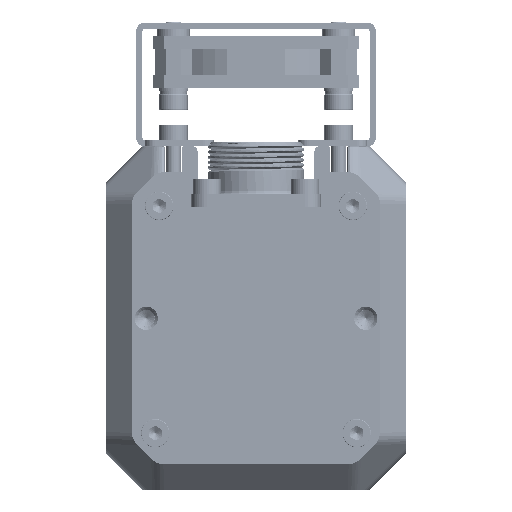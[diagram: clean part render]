
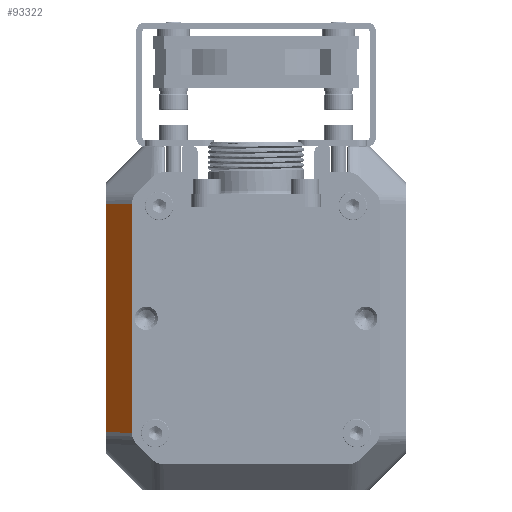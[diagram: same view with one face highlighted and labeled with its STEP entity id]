
A CAD part, front view. The second image highlights one B-rep face of the part: STEP entity #93322.
In plain terms, the highlighted planar face has unit normal (-0.707, -0.707, 0).
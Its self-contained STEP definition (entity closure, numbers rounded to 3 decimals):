
#11271=CARTESIAN_POINT('',(-24.,-485.,-55.435));
#11279=DIRECTION('',(0.707,-0.707,-0.02));
#11280=VECTOR('',#11279,7.072);
#11281=CARTESIAN_POINT('',(-29.,-480.,-55.297));
#11282=LINE('',#11281,#11280);
#11283=DIRECTION('',(0.,0.,-1.));
#11284=VECTOR('',#11283,44.094);
#11285=CARTESIAN_POINT('',(-29.,-480.,-11.203));
#11286=LINE('',#11285,#11284);
#11287=DIRECTION('',(-0.707,0.707,-0.02));
#11288=VECTOR('',#11287,7.072);
#11289=CARTESIAN_POINT('',(-24.,-485.,-11.065));
#11290=LINE('',#11289,#11288);
#11291=DIRECTION('',(0.,0.,1.));
#11292=VECTOR('',#11291,44.371);
#11293=CARTESIAN_POINT('',(-24.,-485.,-55.435));
#11294=LINE('',#11293,#11292);
#11305=CARTESIAN_POINT('',(-29.,-480.,-11.203));
#62864=VERTEX_POINT('',#11271);
#62865=CARTESIAN_POINT('',(-24.,-485.,-11.065));
#62866=VERTEX_POINT('',#62865);
#63076=VERTEX_POINT('',#11305);
#63077=CARTESIAN_POINT('',(-29.,-480.,-55.297));
#63078=VERTEX_POINT('',#63077);
#93309=CARTESIAN_POINT('',(-26.5,-482.5,-33.25));
#93310=DIRECTION('',(-0.707,-0.707,0.));
#93311=DIRECTION('',(-0.707,0.707,0.));
#93312=AXIS2_PLACEMENT_3D('',#93309,#93310,#93311);
#93313=PLANE('',#93312);
#93314=ORIENTED_EDGE('',*,*,#93293,.F.);
#93315=ORIENTED_EDGE('',*,*,#82367,.F.);
#93317=ORIENTED_EDGE('',*,*,#93316,.F.);
#93319=ORIENTED_EDGE('',*,*,#93318,.F.);
#93320=EDGE_LOOP('',(#93314,#93315,#93317,#93319));
#93321=FACE_OUTER_BOUND('',#93320,.F.);
#82367=EDGE_CURVE('',#63076,#63078,#11286,.T.);
#93293=EDGE_CURVE('',#63078,#62864,#11282,.T.);
#93316=EDGE_CURVE('',#62866,#63076,#11290,.T.);
#93318=EDGE_CURVE('',#62864,#62866,#11294,.T.);
#93322=ADVANCED_FACE('',(#93321),#93313,.T.);
